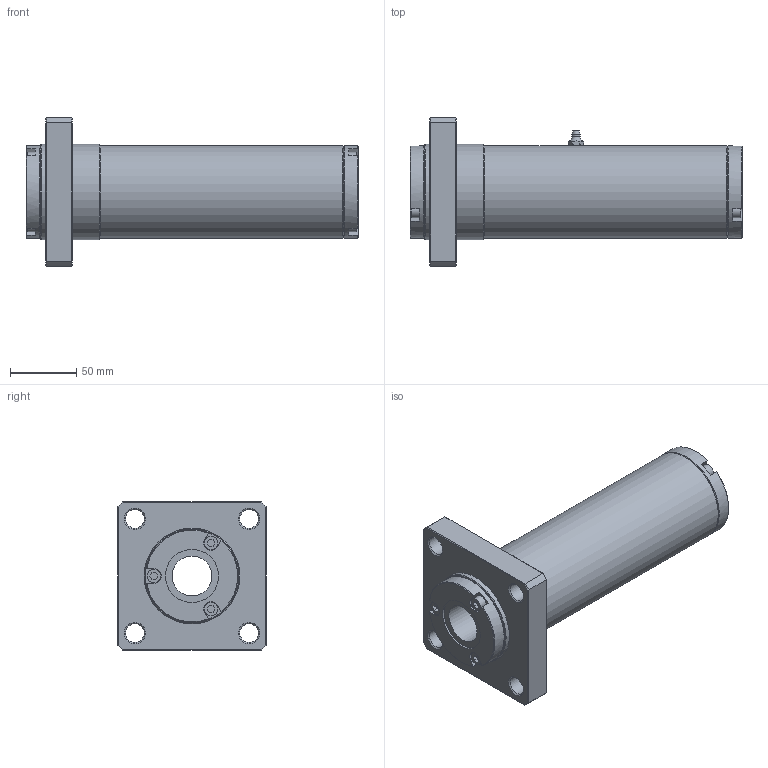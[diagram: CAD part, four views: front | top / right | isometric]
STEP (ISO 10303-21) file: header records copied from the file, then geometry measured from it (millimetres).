
FILE_DESCRIPTION(('STEP AP203'),'1');
FILE_NAME('//192.168.1.1/share/s-4 技術開発/s-4-14_個人別フォルダ/橋詰/09_CAD_DATA/3D/HP用/3Ｄモデル/LCF/LCF-C/LCF-30CVUU.step','2022-02-04T02:45:02',(' '),(' '),'Spatial InterOp 3D',' ',' ');
FILE_SCHEMA(('CONFIG_CONTROL_DESIGN'));
Length unit declared in the file: millimetre
Products named in the file (1): 1
Bounding box: 250 x 112 x 112 mm (x, y, z)
Volume: 947323.7 mm3; surface area: 111341.2 mm2
Topology: 1 solids, 1 shells, 178 faces, 428 edges, 272 vertices
Faces by surface type: plane 100, cone 44, cylinder 31, torus 2, sphere 1
Full cylindrical faces by diameter (mm): 6.6 x1, 8.566 x2, 10 x6, 14 x4, 30 x1, 40 x2, 70 x3, 72 x2
Entity records: 5176 total; most frequent: CARTESIAN_POINT 1235, DIRECTION 792, ORIENTED_EDGE 748, EDGE_CURVE 374, AXIS2_PLACEMENT_3D 300, VERTEX_POINT 259, EDGE_LOOP 248, FACE_OUTER_BOUND 201
